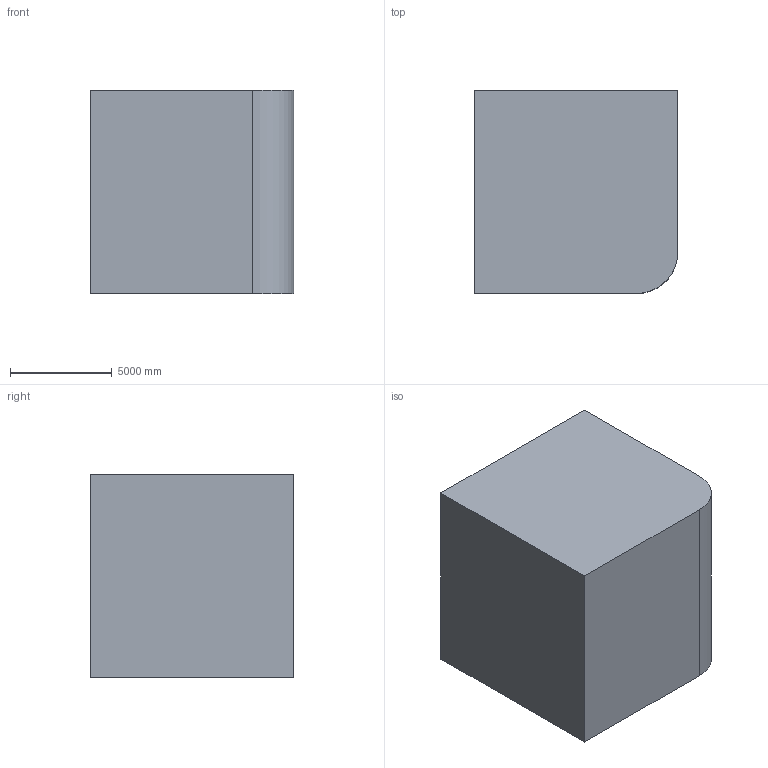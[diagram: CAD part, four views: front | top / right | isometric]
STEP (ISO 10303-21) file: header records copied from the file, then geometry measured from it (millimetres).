
FILE_DESCRIPTION (( 'STEP AP203' ), '1' );
FILE_NAME ('1065.STEP', '2022-08-18T12:37:26', ( 'user' ), ( '' ), 'SwSTEP 2.0', 'SolidWorks 2021', '' );
FILE_SCHEMA (( 'CONFIG_CONTROL_DESIGN' ));
Length unit declared in the file: centimetre
Products named in the file (1): 1065
Bounding box: 10000 x 10000 x 10000 mm (x, y, z)
Volume: 876605153802.3 mm3; surface area: 577718544.9 mm2
Topology: 1 solids, 1 shells, 9 faces, 21 edges, 14 vertices
Faces by surface type: plane 7, cylinder 2
Entity records: 336 total; most frequent: CARTESIAN_POINT 45, DIRECTION 45, ORIENTED_EDGE 42, EDGE_CURVE 21, VECTOR 17, LINE 17, AXIS2_PLACEMENT_3D 14, VERTEX_POINT 14
